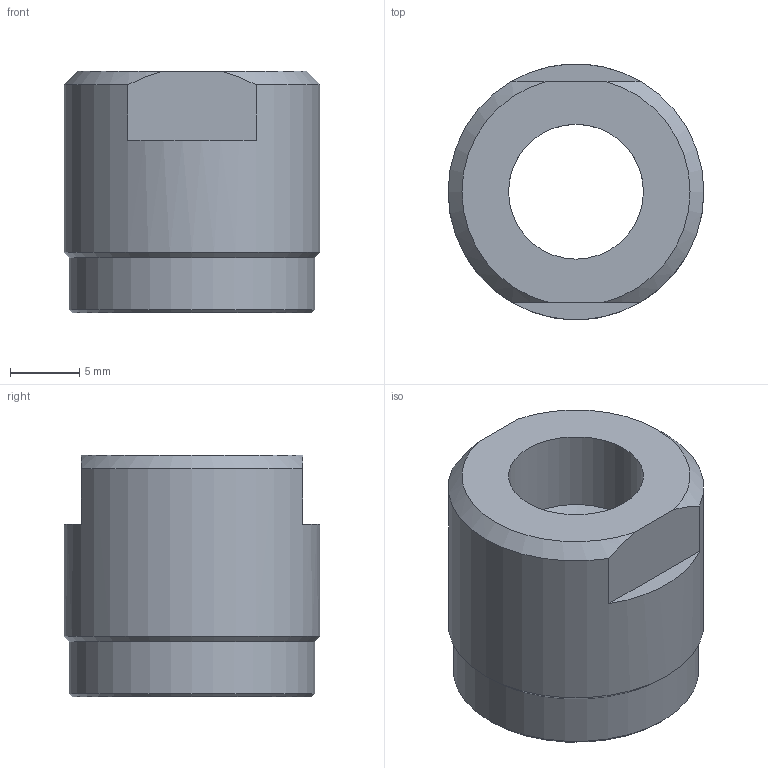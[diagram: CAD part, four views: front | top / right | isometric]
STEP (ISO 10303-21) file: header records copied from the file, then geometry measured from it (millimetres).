
FILE_DESCRIPTION (( 'STEP AP203' ), '1' );
FILE_NAME ('COB-1001.STEP', '2021-04-27T17:38:25', ( '' ), ( '' ), 'SwSTEP 2.0', 'SolidWorks 2020', '' );
FILE_SCHEMA (( 'CONFIG_CONTROL_DESIGN' ));
Length unit declared in the file: millimetre
Products named in the file (1): COB-1001
Bounding box: 18.5 x 18.5 x 17.5 mm (x, y, z)
Volume: 1937.3 mm3; surface area: 2406.9 mm2
Topology: 1 solids, 1 shells, 22 faces, 52 edges, 33 vertices
Faces by surface type: plane 9, cylinder 6, cone 4, bspline 3
Full cylindrical faces by diameter (mm): 9.75 x1, 16 x1, 17.75 x1, 18.5 x1
Entity records: 1881 total; most frequent: CARTESIAN_POINT 1381, ORIENTED_EDGE 86, DIRECTION 79, EDGE_CURVE 43, AXIS2_PLACEMENT_3D 35, VERTEX_POINT 31, EDGE_LOOP 30, FACE_OUTER_BOUND 25
